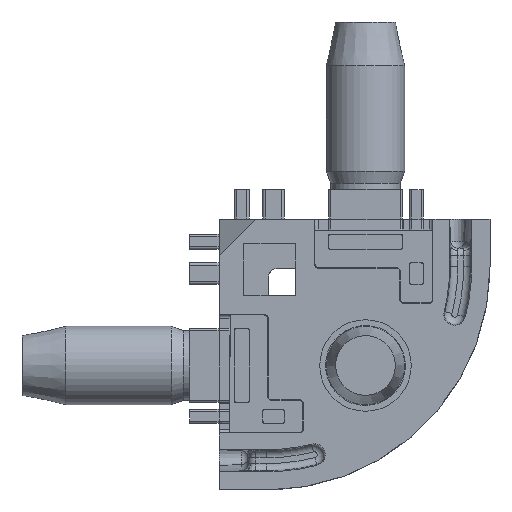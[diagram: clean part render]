
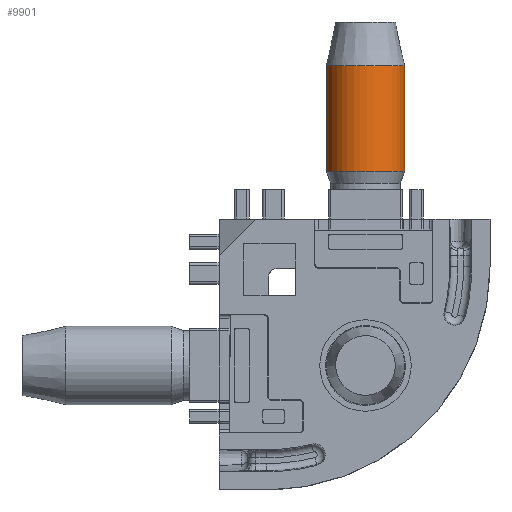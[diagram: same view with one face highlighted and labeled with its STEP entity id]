
A CAD part, front view. The second image highlights one B-rep face of the part: STEP entity #9901.
In plain terms, the highlighted cylindrical face has radius 5.35 mm (diameter 10.7 mm), a full revolution.
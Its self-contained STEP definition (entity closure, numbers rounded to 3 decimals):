
#1047 = FACE_OUTER_BOUND ( 'NONE', #10564, .T. ) ;
#1148 = DIRECTION ( 'NONE',  ( 0., 1., 0. ) ) ;
#3236 = AXIS2_PLACEMENT_3D ( 'NONE', #10570, #5235, #10521 ) ;
#3263 = VERTEX_POINT ( 'NONE', #12597 ) ;
#3515 = CYLINDRICAL_SURFACE ( 'NONE', #3236, 5.35 ) ;
#3547 = EDGE_LOOP ( 'NONE', ( #5486 ) ) ;
#4054 = CARTESIAN_POINT ( 'NONE',  ( 0., -9.848, 5.35 ) ) ;
#5235 = DIRECTION ( 'NONE',  ( 0., 1., 0. ) ) ;
#5486 = ORIENTED_EDGE ( 'NONE', *, *, #6746, .F. ) ;
#5590 = AXIS2_PLACEMENT_3D ( 'NONE', #7521, #1148, #8596 ) ;
#5810 = CARTESIAN_POINT ( 'NONE',  ( 0., -9.848, 0. ) ) ;
#6013 = CIRCLE ( 'NONE', #5590, 5.35 ) ;
#6746 = EDGE_CURVE ( 'NONE', #11765, #11765, #7222, .T. ) ;
#6909 = DIRECTION ( 'NONE',  ( 0., 0., 1. ) ) ;
#7222 = CIRCLE ( 'NONE', #11687, 5.35 ) ;
#7521 = CARTESIAN_POINT ( 'NONE',  ( 0., -24.2, 0. ) ) ;
#7540 = EDGE_CURVE ( 'NONE', #3263, #3263, #6013, .T. ) ;
#8218 = ORIENTED_EDGE ( 'NONE', *, *, #7540, .T. ) ;
#8596 = DIRECTION ( 'NONE',  ( 0., 0., 1. ) ) ;
#9538 = FACE_OUTER_BOUND ( 'NONE', #3547, .T. ) ;
#9901 = ADVANCED_FACE ( 'NONE', ( #1047, #9538 ), #3515, .T. ) ;
#10521 = DIRECTION ( 'NONE',  ( 0., 0., 1. ) ) ;
#10564 = EDGE_LOOP ( 'NONE', ( #8218 ) ) ;
#10570 = CARTESIAN_POINT ( 'NONE',  ( 0., 12.105, 0. ) ) ;
#11687 = AXIS2_PLACEMENT_3D ( 'NONE', #5810, #13286, #6909 ) ;
#11765 = VERTEX_POINT ( 'NONE', #4054 ) ;
#12597 = CARTESIAN_POINT ( 'NONE',  ( 0., -24.2, 5.35 ) ) ;
#13286 = DIRECTION ( 'NONE',  ( 0., 1., 0. ) ) ;
